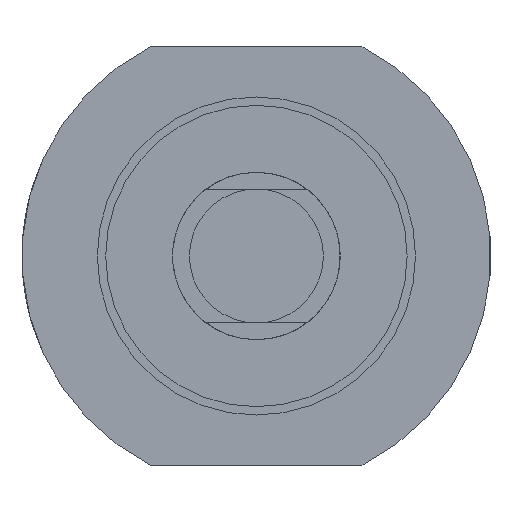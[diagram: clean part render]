
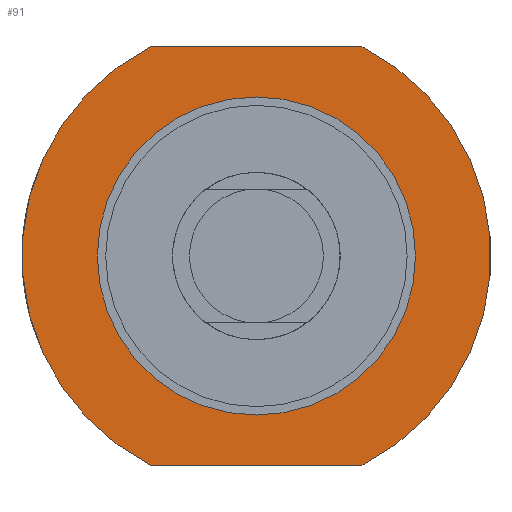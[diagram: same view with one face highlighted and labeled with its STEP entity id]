
A CAD part, left-side view. The second image highlights one B-rep face of the part: STEP entity #91.
In plain terms, the highlighted planar face has unit normal (-1, 0, 0).
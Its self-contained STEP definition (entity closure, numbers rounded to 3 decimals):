
#20 = DIRECTION ( 'NONE',  ( -1., 0., 0. ) ) ;
#33 = AXIS2_PLACEMENT_3D ( 'NONE', #92, #302, #250 ) ;
#47 = DIRECTION ( 'NONE',  ( -1., 0., 0. ) ) ;
#91 = ADVANCED_FACE ( 'NONE', ( #405, #1438 ), #1465, .F. ) ;
#92 = CARTESIAN_POINT ( 'NONE',  ( 34., 0., -14. ) ) ;
#117 = LINE ( 'NONE', #1257, #1407 ) ;
#122 = AXIS2_PLACEMENT_3D ( 'NONE', #339, #47, #1237 ) ;
#235 = EDGE_CURVE ( 'NONE', #500, #731, #425, .T. ) ;
#250 = DIRECTION ( 'NONE',  ( 0., 0., -1. ) ) ;
#294 = ORIENTED_EDGE ( 'NONE', *, *, #1113, .F. ) ;
#302 = DIRECTION ( 'NONE',  ( 1., 0., 0. ) ) ;
#306 = DIRECTION ( 'NONE',  ( -1., 0., 0. ) ) ;
#339 = CARTESIAN_POINT ( 'NONE',  ( 34., 0., 0. ) ) ;
#348 = VECTOR ( 'NONE', #1395, 1000. ) ;
#367 = EDGE_LOOP ( 'NONE', ( #723, #1019 ) ) ;
#405 = FACE_BOUND ( 'NONE', #367, .T. ) ;
#417 = LINE ( 'NONE', #1219, #348 ) ;
#425 = CIRCLE ( 'NONE', #122, 9.5 ) ;
#500 = VERTEX_POINT ( 'NONE', #1236 ) ;
#532 = CARTESIAN_POINT ( 'NONE',  ( 34., 0., -9.5 ) ) ;
#557 = DIRECTION ( 'NONE',  ( 0., 1., 0. ) ) ;
#637 = CARTESIAN_POINT ( 'NONE',  ( 34., 0., 0. ) ) ;
#665 = AXIS2_PLACEMENT_3D ( 'NONE', #637, #20, #1143 ) ;
#723 = ORIENTED_EDGE ( 'NONE', *, *, #235, .F. ) ;
#727 = ORIENTED_EDGE ( 'NONE', *, *, #925, .T. ) ;
#731 = VERTEX_POINT ( 'NONE', #532 ) ;
#744 = ORIENTED_EDGE ( 'NONE', *, *, #793, .F. ) ;
#771 = VERTEX_POINT ( 'NONE', #1440 ) ;
#777 = CARTESIAN_POINT ( 'NONE',  ( 34., 6.305, 12.5 ) ) ;
#793 = EDGE_CURVE ( 'NONE', #1383, #1590, #117, .T. ) ;
#831 = CARTESIAN_POINT ( 'NONE',  ( 34., 0., 0. ) ) ;
#862 = EDGE_CURVE ( 'NONE', #731, #500, #1579, .T. ) ;
#922 = CIRCLE ( 'NONE', #1470, 14. ) ;
#925 = EDGE_CURVE ( 'NONE', #1383, #771, #936, .T. ) ;
#936 = CIRCLE ( 'NONE', #665, 14. ) ;
#1003 = CARTESIAN_POINT ( 'NONE',  ( 34., 0., 0. ) ) ;
#1019 = ORIENTED_EDGE ( 'NONE', *, *, #862, .F. ) ;
#1113 = EDGE_CURVE ( 'NONE', #1481, #771, #417, .T. ) ;
#1132 = ORIENTED_EDGE ( 'NONE', *, *, #1475, .T. ) ;
#1142 = DIRECTION ( 'NONE',  ( 0., 0., 1. ) ) ;
#1143 = DIRECTION ( 'NONE',  ( 0., 0., 1. ) ) ;
#1160 = CARTESIAN_POINT ( 'NONE',  ( 34., 6.305, -12.5 ) ) ;
#1206 = EDGE_LOOP ( 'NONE', ( #1132, #744, #727, #294 ) ) ;
#1219 = CARTESIAN_POINT ( 'NONE',  ( 34., 11.874, 12.5 ) ) ;
#1236 = CARTESIAN_POINT ( 'NONE',  ( 34., 0., 9.5 ) ) ;
#1237 = DIRECTION ( 'NONE',  ( 0., 0., 1. ) ) ;
#1246 = DIRECTION ( 'NONE',  ( 0., 0., 1. ) ) ;
#1257 = CARTESIAN_POINT ( 'NONE',  ( 34., 11.874, -12.5 ) ) ;
#1274 = DIRECTION ( 'NONE',  ( -1., 0., 0. ) ) ;
#1288 = AXIS2_PLACEMENT_3D ( 'NONE', #1003, #306, #1142 ) ;
#1383 = VERTEX_POINT ( 'NONE', #1603 ) ;
#1395 = DIRECTION ( 'NONE',  ( 0., -1., 0. ) ) ;
#1407 = VECTOR ( 'NONE', #557, 1000. ) ;
#1438 = FACE_OUTER_BOUND ( 'NONE', #1206, .T. ) ;
#1440 = CARTESIAN_POINT ( 'NONE',  ( 34., -6.305, 12.5 ) ) ;
#1465 = PLANE ( 'NONE',  #33 ) ;
#1470 = AXIS2_PLACEMENT_3D ( 'NONE', #831, #1274, #1246 ) ;
#1475 = EDGE_CURVE ( 'NONE', #1481, #1590, #922, .T. ) ;
#1481 = VERTEX_POINT ( 'NONE', #777 ) ;
#1579 = CIRCLE ( 'NONE', #1288, 9.5 ) ;
#1590 = VERTEX_POINT ( 'NONE', #1160 ) ;
#1603 = CARTESIAN_POINT ( 'NONE',  ( 34., -6.305, -12.5 ) ) ;
